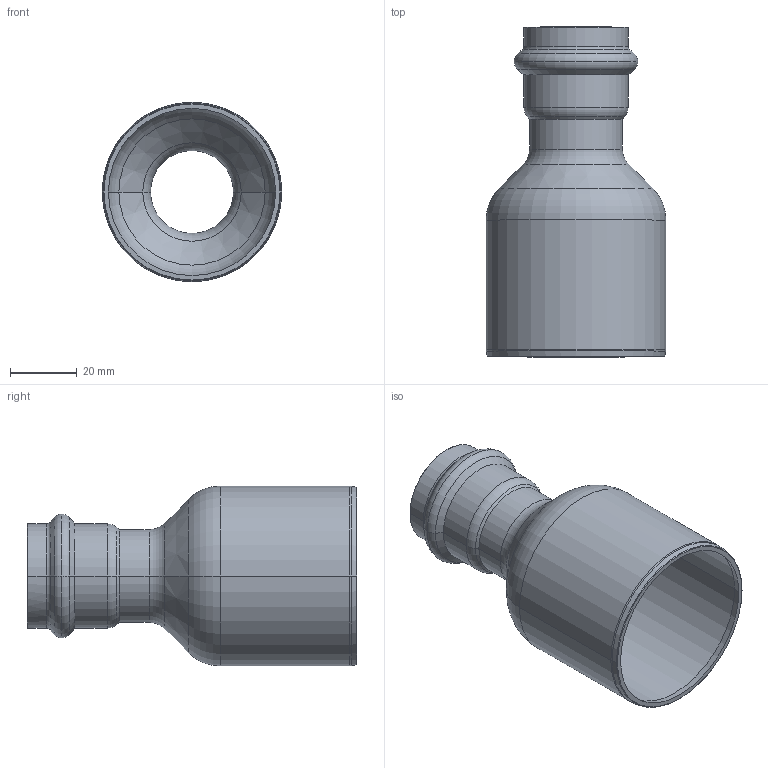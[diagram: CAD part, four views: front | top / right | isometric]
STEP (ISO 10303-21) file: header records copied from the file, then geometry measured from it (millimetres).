
FILE_DESCRIPTION(('CoCreate Modeling STEP Export'),'2;1');
FILE_NAME('8243VW5428.stp','2013-03-05T 9:45:04',(''),(''),'CoCreate Modeling STEP processor for AP214 (Solid Model)','CoCreate Modeling 17.00A 17-Jun-2010 (C) Parametric Technology GmbH','');
FILE_SCHEMA(('AUTOMOTIVE_DESIGN { 1 0 10303 214 1 1 1 1 }'));
Length unit declared in the file: millimetre
Products named in the file (2): 8243VW5428
Assembly tree (1 placements, depth 2):
  8243VW5428
    8243VW5428
Bounding box: 54 x 99.11 x 54 mm (x, y, z)
Volume: 22463.8 mm3; surface area: 27780.3 mm2
Topology: 1 solids, 1 shells, 75 faces, 159 edges, 89 vertices
Faces by surface type: cone 26, torus 24, cylinder 20, plane 5
Entity records: 1642 total; most frequent: ORIENTED_EDGE 318, DIRECTION 256, CARTESIAN_POINT 240, EDGE_CURVE 159, AXIS2_PLACEMENT_3D 105, VERTEX_POINT 89, EDGE_LOOP 80, FACE_OUTER_BOUND 75
